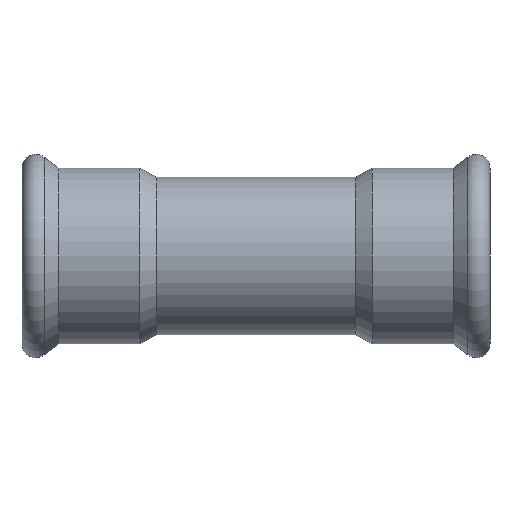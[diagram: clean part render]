
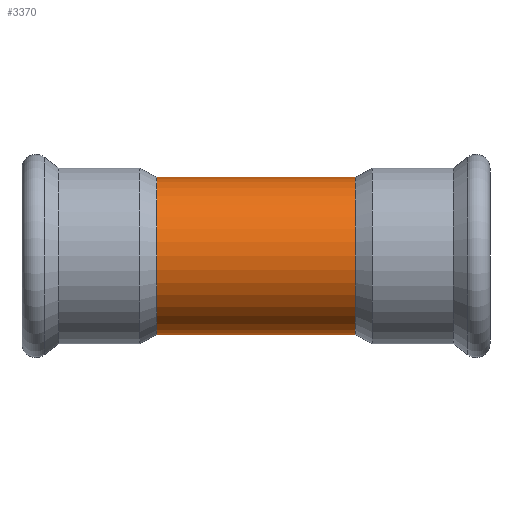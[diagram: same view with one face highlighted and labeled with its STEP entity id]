
A CAD part, front view. The second image highlights one B-rep face of the part: STEP entity #3370.
In plain terms, the highlighted cylindrical face has radius 17.15 mm (diameter 34.3 mm), a partial arc.
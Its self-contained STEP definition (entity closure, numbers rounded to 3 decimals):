
#335 = EDGE_CURVE ( 'NONE', #2993, #4423, #2223, .T. ) ;
#610 = CARTESIAN_POINT ( 'NONE',  ( 0., 0., 17.15 ) ) ;
#980 = DIRECTION ( 'NONE',  ( -1., 0., 0. ) ) ;
#1408 = DIRECTION ( 'NONE',  ( -1., 0., 0. ) ) ;
#1472 = DIRECTION ( 'NONE',  ( 0., 0., 1. ) ) ;
#1689 = CARTESIAN_POINT ( 'NONE',  ( 21.626, 0., -17.15 ) ) ;
#1778 = EDGE_CURVE ( 'NONE', #5622, #4423, #2264, .T. ) ;
#1796 = AXIS2_PLACEMENT_3D ( 'NONE', #3106, #5259, #3193 ) ;
#1918 = EDGE_CURVE ( 'NONE', #4991, #2993, #2986, .T. ) ;
#2049 = DIRECTION ( 'NONE',  ( 0., 0., 1. ) ) ;
#2078 = ORIENTED_EDGE ( 'NONE', *, *, #1778, .T. ) ;
#2115 = FACE_OUTER_BOUND ( 'NONE', #5268, .T. ) ;
#2223 = CIRCLE ( 'NONE', #6096, 17.15 ) ;
#2264 = LINE ( 'NONE', #610, #4693 ) ;
#2517 = CARTESIAN_POINT ( 'NONE',  ( 21.626, 0., 17.15 ) ) ;
#2717 = VECTOR ( 'NONE', #1408, 1000. ) ;
#2986 = LINE ( 'NONE', #4459, #2717 ) ;
#2993 = VERTEX_POINT ( 'NONE', #4150 ) ;
#3106 = CARTESIAN_POINT ( 'NONE',  ( 0., 0., 0. ) ) ;
#3124 = CIRCLE ( 'NONE', #4546, 17.15 ) ;
#3167 = CYLINDRICAL_SURFACE ( 'NONE', #1796, 17.15 ) ;
#3193 = DIRECTION ( 'NONE',  ( 0., 0., 1. ) ) ;
#3361 = DIRECTION ( 'NONE',  ( -1., 0., 0. ) ) ;
#3370 = ADVANCED_FACE ( 'NONE', ( #2115 ), #3167, .T. ) ;
#4109 = CARTESIAN_POINT ( 'NONE',  ( 21.626, 0., 0. ) ) ;
#4150 = CARTESIAN_POINT ( 'NONE',  ( -21.626, 0., -17.15 ) ) ;
#4423 = VERTEX_POINT ( 'NONE', #4476 ) ;
#4459 = CARTESIAN_POINT ( 'NONE',  ( 0., 0., -17.15 ) ) ;
#4476 = CARTESIAN_POINT ( 'NONE',  ( -21.626, 0., 17.15 ) ) ;
#4546 = AXIS2_PLACEMENT_3D ( 'NONE', #4109, #6211, #1472 ) ;
#4685 = CARTESIAN_POINT ( 'NONE',  ( -21.626, 0., 0. ) ) ;
#4693 = VECTOR ( 'NONE', #3361, 1000. ) ;
#4991 = VERTEX_POINT ( 'NONE', #1689 ) ;
#5259 = DIRECTION ( 'NONE',  ( -1., 0., 0. ) ) ;
#5268 = EDGE_LOOP ( 'NONE', ( #5868, #5584, #2078, #6586 ) ) ;
#5584 = ORIENTED_EDGE ( 'NONE', *, *, #5662, .T. ) ;
#5622 = VERTEX_POINT ( 'NONE', #2517 ) ;
#5662 = EDGE_CURVE ( 'NONE', #4991, #5622, #3124, .T. ) ;
#5868 = ORIENTED_EDGE ( 'NONE', *, *, #1918, .F. ) ;
#6096 = AXIS2_PLACEMENT_3D ( 'NONE', #4685, #980, #2049 ) ;
#6211 = DIRECTION ( 'NONE',  ( -1., 0., 0. ) ) ;
#6586 = ORIENTED_EDGE ( 'NONE', *, *, #335, .F. ) ;
